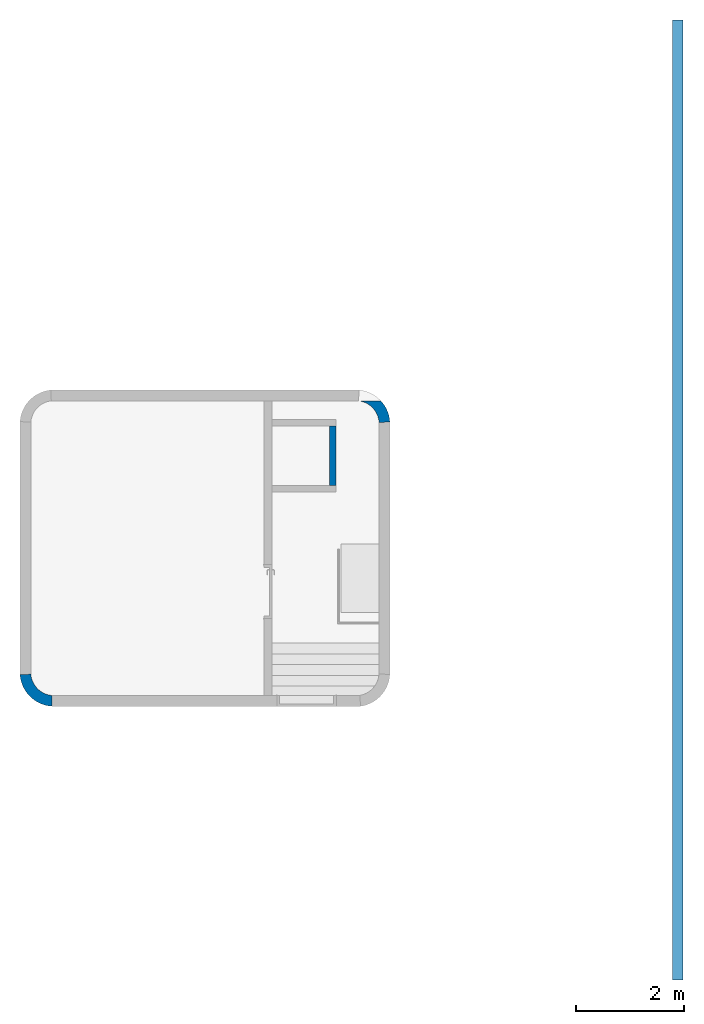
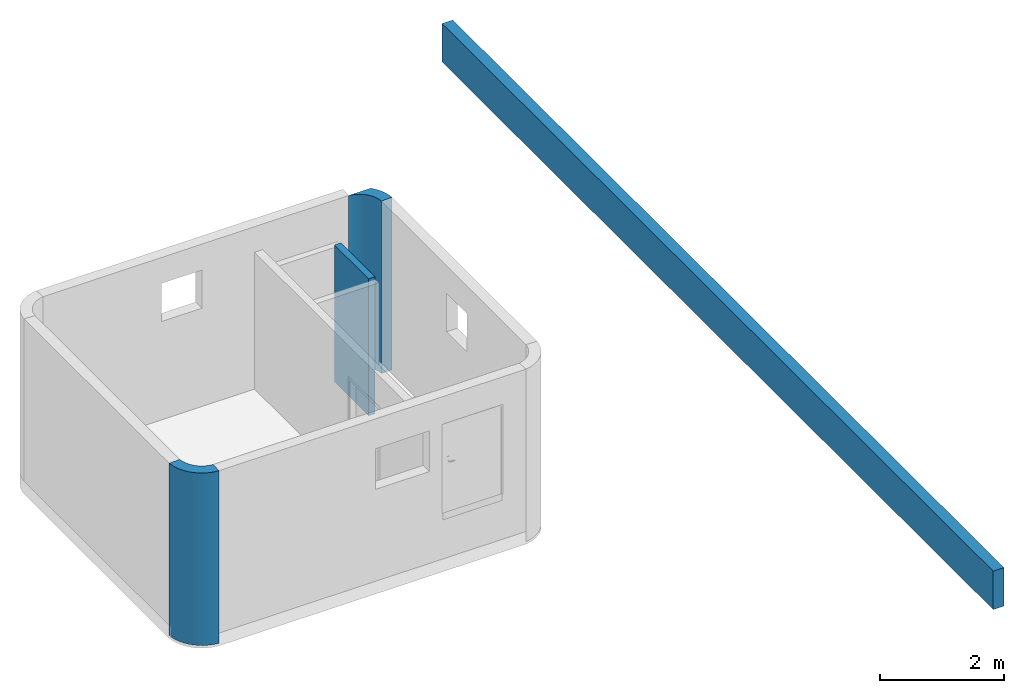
# One storey, part 1 of 2: 4 walls.
"""IFC2X3 building model written with IfcOpenShell, lengths in metres."""

from ifc_helpers import new_model, entity, si_unit, converted_unit, derived_unit, direction, frame, frame_2d, origin, place, context, subcontext, project, spatial, polyline, circle_curve, parameter, trimmed, segment, composite_curve, rectangle, outline, extrude, clip, bounded_halfspace, material, layer, layer_set, layer_usage, type_object, element, save


model = new_model("IFC2X3")

# Units and contexts
model_context = context("Model", 3, precision=1e-05, world=origin(), true_north=direction((6.12303176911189e-17, 1.0)))
body_context = subcontext(model_context, "Body", "Model", "MODEL_VIEW")
ifc_project = project(units=[si_unit("LENGTHUNIT", "METRE"), si_unit("AREAUNIT", "SQUARE_METRE"), si_unit("VOLUMEUNIT", "CUBIC_METRE"), converted_unit("PLANEANGLEUNIT", "DEGREE", entity("IfcRatioMeasure", 0.0174532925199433), si_unit("PLANEANGLEUNIT", "RADIAN"), dimensions=[0, 0, 0, 0, 0, 0, 0]), si_unit("MASSUNIT", "GRAM", prefix="KILO"), derived_unit("MASSDENSITYUNIT", [(si_unit("MASSUNIT", "GRAM", prefix="KILO"), 1), (si_unit("LENGTHUNIT", "METRE"), -3)]), derived_unit("MOMENTOFINERTIAUNIT", [(si_unit("LENGTHUNIT", "METRE"), 4)]), si_unit("TIMEUNIT", "SECOND"), si_unit("FREQUENCYUNIT", "HERTZ"), si_unit("THERMODYNAMICTEMPERATUREUNIT", "DEGREE_CELSIUS"), derived_unit("THERMALTRANSMITTANCEUNIT", [(si_unit("MASSUNIT", "GRAM", prefix="KILO"), 1), (si_unit("THERMODYNAMICTEMPERATUREUNIT", "KELVIN"), -1), (si_unit("TIMEUNIT", "SECOND"), -3)]), derived_unit("VOLUMETRICFLOWRATEUNIT", [(si_unit("LENGTHUNIT", "METRE"), 3), (si_unit("TIMEUNIT", "SECOND"), -1)]), si_unit("ELECTRICCURRENTUNIT", "AMPERE"), si_unit("ELECTRICVOLTAGEUNIT", "VOLT"), si_unit("POWERUNIT", "WATT"), si_unit("FORCEUNIT", "NEWTON", prefix="KILO"), si_unit("ILLUMINANCEUNIT", "LUX"), si_unit("LUMINOUSFLUXUNIT", "LUMEN"), si_unit("LUMINOUSINTENSITYUNIT", "CANDELA"), derived_unit("USERDEFINED", [(si_unit("MASSUNIT", "GRAM", prefix="KILO"), -1), (si_unit("LENGTHUNIT", "METRE"), -2), (si_unit("TIMEUNIT", "SECOND"), 3), (si_unit("LUMINOUSFLUXUNIT", "LUMEN"), 1)]), derived_unit("LINEARVELOCITYUNIT", [(si_unit("LENGTHUNIT", "METRE"), 1), (si_unit("TIMEUNIT", "SECOND"), -1)]), si_unit("PRESSUREUNIT", "PASCAL"), derived_unit("USERDEFINED", [(si_unit("LENGTHUNIT", "METRE"), -2), (si_unit("MASSUNIT", "GRAM", prefix="KILO"), 1), (si_unit("TIMEUNIT", "SECOND"), -2)]), derived_unit("LINEARFORCEUNIT", [(si_unit("MASSUNIT", "GRAM", prefix="KILO"), 1), (si_unit("LENGTHUNIT", "METRE"), 1), (si_unit("TIMEUNIT", "SECOND"), -2), (si_unit("LENGTHUNIT", "METRE"), -1)]), derived_unit("PLANARFORCEUNIT", [(si_unit("MASSUNIT", "GRAM", prefix="KILO"), 1), (si_unit("LENGTHUNIT", "METRE"), 1), (si_unit("TIMEUNIT", "SECOND"), -2), (si_unit("LENGTHUNIT", "METRE"), -2)])], contexts=[model_context])

# Site, building, storey
site_placement = place(None, origin())
site = spatial("IfcSite", under=ifc_project, at=site_placement, Name="Default", CompositionType="ELEMENT")
building_placement = place(site_placement, origin())
building = spatial("IfcBuilding", under=site, at=building_placement, CompositionType="ELEMENT")
storey_placement = place(building_placement, frame((0.0, 0.0, 10.1533082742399)))
storey = spatial("IfcBuildingStorey", under=building, at=storey_placement, Name="Niveau 3 - 01", CompositionType="ELEMENT", Elevation=10.1533082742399)

# Walls
ifc_material_1 = material(Name="Maçonnerie - Voile BA")
ifc_layer_1 = layer(ifc_material_1, 0.2)
ifc_layer_set_1 = layer_set([ifc_layer_1], Name="Mur de base:Ext. Voile BA 200")
ifc_layer_usage_1 = layer_usage(ifc_layer_set_1, "AXIS2", "POSITIVE", -0.1)
wall_type_1 = type_object("IfcWallType", Name="Mur de base:Ext. Voile BA 200", PredefinedType="STANDARD", material=ifc_layer_set_1)
wall_1_placement = place(storey_placement, frame((-9.26901298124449, -3.76198351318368, -0.2), z_axis=(0.0, 0.0, 1.0), x_axis=(-1.0, 0.0, 0.0)))
element("IfcWallStandardCase", 1, at=wall_1_placement, inside=storey, type_object=wall_type_1, material=ifc_layer_usage_1, Name="Mur de base:Ext. Voile BA 200", ObjectType="Mur de base:Ext. Voile BA 200", context=body_context, shape_type="SweptSolid", body=[
    extrude(outline(composite_curve([segment(polyline([(0.0662819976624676, -0.397868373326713), (0.479738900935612, -0.397868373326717)]), True, "CONTINUOUS"), segment(trimmed(circle_curve(frame_2d((0.529586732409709, 0.0296515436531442), x_axis=(1.0, 0.0)), 0.430416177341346), [parameter(183.878603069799)], [parameter(263.349474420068)], True, "PARAMETER"), False, "CONTINUOUS"), segment(polyline([(0.100156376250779, 0.000537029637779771), (0.00494026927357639, -0.00238004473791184)]), True, "CONTINUOUS"), segment(polyline([(0.00494026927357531, -0.00238004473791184), (-0.0996577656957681, -0.00876613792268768)]), True, "CONTINUOUS"), segment(trimmed(circle_curve(frame_2d((0.529586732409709, 0.0296515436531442), x_axis=(1.0, 0.0)), 0.630416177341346), [parameter(183.493780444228)], [parameter(222.699640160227)], True, "PARAMETER"), True, "CONTINUOUS")], self_intersect=False)), origin(), (0.0, 0.0, 1.0), 3.39),
])
ifc_layer_usage_2 = layer_usage(ifc_layer_set_1, "AXIS2", "POSITIVE", -0.1)
wall_2_placement = place(storey_placement, frame((-15.9061749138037, -8.4166050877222, -0.2)))
element("IfcWallStandardCase", 2, at=wall_2_placement, inside=storey, type_object=wall_type_1, material=ifc_layer_usage_2, Name="Mur de base:Ext. Voile BA 200", ObjectType="Mur de base:Ext. Voile BA 200", context=body_context, shape_type="SweptSolid", body=[
    extrude(outline(composite_curve([segment(trimmed(circle_curve(frame_2d((0.529151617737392, 0.0366044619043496), x_axis=(1.0, 0.0)), 0.430416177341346), [parameter(184.789550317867)], [parameter(265.54290232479)], True, "PARAMETER"), False, "CONTINUOUS"), segment(polyline([(0.100238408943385, 0.000666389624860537), (-0.0997615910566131, -0.0069010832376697)]), True, "CONTINUOUS"), segment(polyline([(-0.0997615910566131, -0.00690108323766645), (-0.0893456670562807, -0.0854023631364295)]), True, "CONTINUOUS"), segment(polyline([(-0.0893456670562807, -0.0854023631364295), (-0.0691711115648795, -0.161976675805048)]), True, "CONTINUOUS"), segment(polyline([(-0.0691711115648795, -0.161976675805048), (-0.0395562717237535, -0.235417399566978)]), True, "CONTINUOUS"), segment(polyline([(-0.0395562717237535, -0.235417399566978), (-0.000968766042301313, -0.304565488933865)]), True, "CONTINUOUS"), segment(polyline([(-0.000968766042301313, -0.304565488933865), (0.0459823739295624, -0.368330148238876)]), True, "CONTINUOUS"), segment(polyline([(0.0459823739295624, -0.368330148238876), (0.10055622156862, -0.42570554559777)]), True, "CONTINUOUS"), segment(polyline([(0.10055622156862, -0.42570554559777), (0.16189164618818, -0.475786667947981)]), True, "CONTINUOUS"), segment(polyline([(0.16189164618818, -0.475786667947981), (0.229030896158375, -0.517785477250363)]), True, "CONTINUOUS"), segment(polyline([(0.229030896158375, -0.517785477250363), (0.28432204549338, -0.54432844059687)]), True, "CONTINUOUS"), segment(polyline([(0.28432204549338, -0.54432844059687), (0.341946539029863, -0.565374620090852)]), True, "CONTINUOUS"), segment(polyline([(0.341946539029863, -0.565374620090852), (0.401375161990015, -0.580726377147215)]), True, "CONTINUOUS"), segment(polyline([(0.401375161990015, -0.580726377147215), (0.444763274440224, -0.588138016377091)]), True, "CONTINUOUS"), segment(polyline([(0.444763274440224, -0.588138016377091), (0.488661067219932, -0.592510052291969)]), True, "CONTINUOUS"), segment(polyline([(0.488661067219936, -0.592510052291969), (0.49570285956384, -0.392510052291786)]), True, "CONTINUOUS")], self_intersect=False)), origin(), (0.0, 0.0, 1.0), 3.39),
])
ifc_layer_usage_3 = layer_usage(ifc_layer_set_1, "AXIS2", "NEGATIVE", 0.1)
wall_3_placement = place(storey_placement, frame((-3.84898917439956, -14.0691151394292, -0.486000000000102), z_axis=(0.0, 0.0, 1.0), x_axis=(0.0, 1.0, 0.0)))
element("IfcWallStandardCase", 3, at=wall_3_placement, inside=storey, type_object=wall_type_1, material=ifc_layer_usage_3, Name="Mur de base:Ext. Voile BA 200", ObjectType="Mur de base:Ext. Voile BA 200", context=body_context, shape_type="SweptSolid", body=[
    extrude(rectangle(XDim=17.7450000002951, YDim=0.2, at=frame_2d((8.87250000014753, 6.24500451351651e-17), x_axis=(-1.0, 0.0))), origin(), (0.0, 0.0, 1.0), 0.756000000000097),
])
ifc_material_2 = material(Name="Mur par défaut")
ifc_layer_2 = layer(ifc_material_2, 0.12)
ifc_layer_set_2 = layer_set([ifc_layer_2], Name="Mur de base:@_Générique - Int. 120 mm")
ifc_layer_usage_4 = layer_usage(ifc_layer_set_2, "AXIS2", "NEGATIVE", 0.06)
wall_type_2 = type_object("IfcWallType", Name="Mur de base:@_Générique - Int. 120 mm", PredefinedType="STANDARD", material=ifc_layer_set_2)
wall_4_placement = place(storey_placement, frame((-10.2246952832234, -4.93256187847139, 0.0), z_axis=(0.0, 0.0, 1.0), x_axis=(0.0, 1.0, 0.0)))
element("IfcWallStandardCase", 4, at=wall_4_placement, inside=storey, type_object=wall_type_2, material=ifc_layer_usage_4, Name="Mur de base:@_Générique - Int. 120 mm", ObjectType="Mur de base:@_Générique - Int. 120 mm", context=body_context, shape_type="Clipping", body=[
    clip(extrude(rectangle(XDim=1.10000000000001, YDim=0.119999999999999, at=frame_2d((0.550000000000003, 3.85108611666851e-16), x_axis=(-1.0, 0.0))), origin(), (0.0, 0.0, 1.0), 2.69), bounded_halfspace(frame((0.0, -0.0600000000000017, 2.69), z_axis=(0.0, 0.0, -1.0), x_axis=(-1.0, 0.0, 0.0)), True, frame((0.0, -0.0600000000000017, 2.69)), polyline([(0.0, 0.0), (1.10000000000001, 0.0), (1.10000000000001, 0.120000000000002), (0.0, 0.120000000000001), (0.0, 0.0)]))),
])

save(model, "model.ifc")
